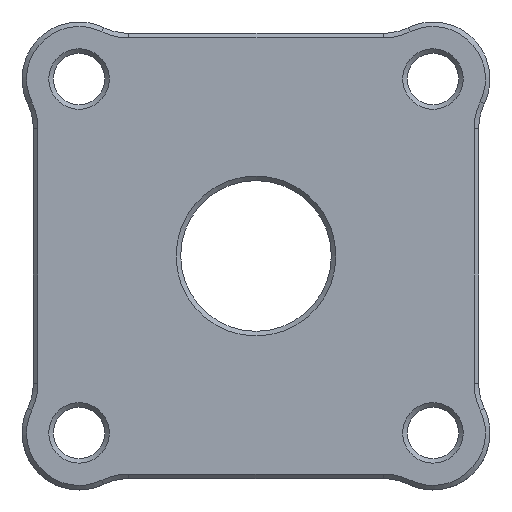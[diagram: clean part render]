
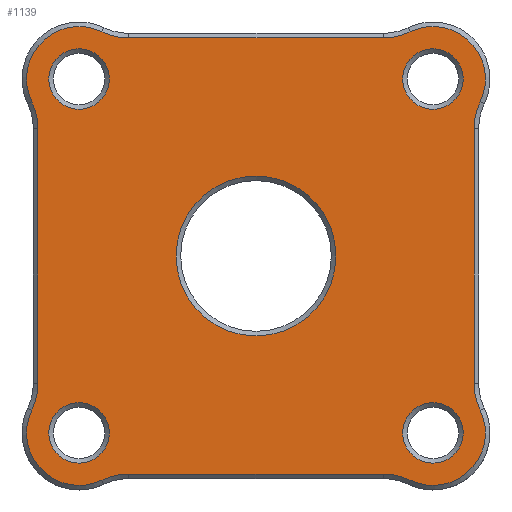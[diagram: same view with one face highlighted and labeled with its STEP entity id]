
A CAD part, front view. The second image highlights one B-rep face of the part: STEP entity #1139.
In plain terms, the highlighted planar face has unit normal (0, -1, 0).
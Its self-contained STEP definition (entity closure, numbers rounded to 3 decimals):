
#36=FACE_BOUND('',#141,.T.);
#37=FACE_BOUND('',#142,.T.);
#38=FACE_BOUND('',#143,.T.);
#39=FACE_BOUND('',#144,.T.);
#40=FACE_BOUND('',#145,.T.);
#46=PLANE('',#1228);
#67=FACE_OUTER_BOUND('',#140,.T.);
#140=EDGE_LOOP('',(#766,#767,#768,#769,#770,#771,#772,#773,#774,#775,#776,
#777,#778,#779,#780,#781));
#141=EDGE_LOOP('',(#782));
#142=EDGE_LOOP('',(#783));
#143=EDGE_LOOP('',(#784));
#144=EDGE_LOOP('',(#785));
#145=EDGE_LOOP('',(#786));
#223=LINE('',#1784,#318);
#224=LINE('',#1792,#319);
#225=LINE('',#1800,#320);
#226=LINE('',#1808,#321);
#318=VECTOR('',#1388,10.);
#319=VECTOR('',#1395,10.);
#320=VECTOR('',#1402,10.);
#321=VECTOR('',#1409,10.);
#413=CIRCLE('',#1227,2.65);
#414=CIRCLE('',#1229,5.4);
#415=CIRCLE('',#1230,5.4);
#416=CIRCLE('',#1231,4.6);
#417=CIRCLE('',#1232,5.4);
#418=CIRCLE('',#1233,5.4);
#419=CIRCLE('',#1234,4.6);
#420=CIRCLE('',#1235,5.4);
#421=CIRCLE('',#1236,5.4);
#422=CIRCLE('',#1237,4.6);
#423=CIRCLE('',#1238,5.4);
#424=CIRCLE('',#1239,5.4);
#425=CIRCLE('',#1240,4.6);
#426=CIRCLE('',#1241,2.65);
#427=CIRCLE('',#1242,2.65);
#428=CIRCLE('',#1243,7.);
#429=CIRCLE('',#1244,2.65);
#490=VERTEX_POINT('',#1776);
#491=VERTEX_POINT('',#1780);
#492=VERTEX_POINT('',#1781);
#493=VERTEX_POINT('',#1783);
#494=VERTEX_POINT('',#1785);
#495=VERTEX_POINT('',#1787);
#496=VERTEX_POINT('',#1789);
#497=VERTEX_POINT('',#1791);
#498=VERTEX_POINT('',#1793);
#499=VERTEX_POINT('',#1795);
#500=VERTEX_POINT('',#1797);
#501=VERTEX_POINT('',#1799);
#502=VERTEX_POINT('',#1801);
#503=VERTEX_POINT('',#1803);
#504=VERTEX_POINT('',#1805);
#505=VERTEX_POINT('',#1807);
#506=VERTEX_POINT('',#1809);
#507=VERTEX_POINT('',#1812);
#508=VERTEX_POINT('',#1814);
#509=VERTEX_POINT('',#1816);
#510=VERTEX_POINT('',#1818);
#592=EDGE_CURVE('',#490,#490,#413,.T.);
#593=EDGE_CURVE('',#491,#492,#414,.T.);
#594=EDGE_CURVE('',#492,#493,#223,.T.);
#595=EDGE_CURVE('',#493,#494,#415,.T.);
#596=EDGE_CURVE('',#494,#495,#416,.T.);
#597=EDGE_CURVE('',#495,#496,#417,.T.);
#598=EDGE_CURVE('',#496,#497,#224,.T.);
#599=EDGE_CURVE('',#497,#498,#418,.T.);
#600=EDGE_CURVE('',#498,#499,#419,.T.);
#601=EDGE_CURVE('',#499,#500,#420,.T.);
#602=EDGE_CURVE('',#500,#501,#225,.T.);
#603=EDGE_CURVE('',#501,#502,#421,.T.);
#604=EDGE_CURVE('',#502,#503,#422,.T.);
#605=EDGE_CURVE('',#503,#504,#423,.T.);
#606=EDGE_CURVE('',#504,#505,#226,.T.);
#607=EDGE_CURVE('',#505,#506,#424,.T.);
#608=EDGE_CURVE('',#506,#491,#425,.T.);
#609=EDGE_CURVE('',#507,#507,#426,.T.);
#610=EDGE_CURVE('',#508,#508,#427,.T.);
#611=EDGE_CURVE('',#509,#509,#428,.T.);
#612=EDGE_CURVE('',#510,#510,#429,.T.);
#766=ORIENTED_EDGE('',*,*,#593,.T.);
#767=ORIENTED_EDGE('',*,*,#594,.T.);
#768=ORIENTED_EDGE('',*,*,#595,.T.);
#769=ORIENTED_EDGE('',*,*,#596,.T.);
#770=ORIENTED_EDGE('',*,*,#597,.T.);
#771=ORIENTED_EDGE('',*,*,#598,.T.);
#772=ORIENTED_EDGE('',*,*,#599,.T.);
#773=ORIENTED_EDGE('',*,*,#600,.T.);
#774=ORIENTED_EDGE('',*,*,#601,.T.);
#775=ORIENTED_EDGE('',*,*,#602,.T.);
#776=ORIENTED_EDGE('',*,*,#603,.T.);
#777=ORIENTED_EDGE('',*,*,#604,.T.);
#778=ORIENTED_EDGE('',*,*,#605,.T.);
#779=ORIENTED_EDGE('',*,*,#606,.T.);
#780=ORIENTED_EDGE('',*,*,#607,.T.);
#781=ORIENTED_EDGE('',*,*,#608,.T.);
#782=ORIENTED_EDGE('',*,*,#609,.T.);
#783=ORIENTED_EDGE('',*,*,#610,.T.);
#784=ORIENTED_EDGE('',*,*,#611,.T.);
#785=ORIENTED_EDGE('',*,*,#612,.T.);
#786=ORIENTED_EDGE('',*,*,#592,.T.);
#1139=ADVANCED_FACE('',(#67,#36,#37,#38,#39,#40),#46,.F.);
#1227=AXIS2_PLACEMENT_3D('',#1778,#1382,#1383);
#1228=AXIS2_PLACEMENT_3D('',#1779,#1384,#1385);
#1229=AXIS2_PLACEMENT_3D('',#1782,#1386,#1387);
#1230=AXIS2_PLACEMENT_3D('',#1786,#1389,#1390);
#1231=AXIS2_PLACEMENT_3D('',#1788,#1391,#1392);
#1232=AXIS2_PLACEMENT_3D('',#1790,#1393,#1394);
#1233=AXIS2_PLACEMENT_3D('',#1794,#1396,#1397);
#1234=AXIS2_PLACEMENT_3D('',#1796,#1398,#1399);
#1235=AXIS2_PLACEMENT_3D('',#1798,#1400,#1401);
#1236=AXIS2_PLACEMENT_3D('',#1802,#1403,#1404);
#1237=AXIS2_PLACEMENT_3D('',#1804,#1405,#1406);
#1238=AXIS2_PLACEMENT_3D('',#1806,#1407,#1408);
#1239=AXIS2_PLACEMENT_3D('',#1810,#1410,#1411);
#1240=AXIS2_PLACEMENT_3D('',#1811,#1412,#1413);
#1241=AXIS2_PLACEMENT_3D('',#1813,#1414,#1415);
#1242=AXIS2_PLACEMENT_3D('',#1815,#1416,#1417);
#1243=AXIS2_PLACEMENT_3D('',#1817,#1418,#1419);
#1244=AXIS2_PLACEMENT_3D('',#1819,#1420,#1421);
#1382=DIRECTION('center_axis',(0.,1.,0.));
#1383=DIRECTION('ref_axis',(1.,0.,0.));
#1384=DIRECTION('center_axis',(0.,1.,0.));
#1385=DIRECTION('ref_axis',(1.,0.,0.));
#1386=DIRECTION('center_axis',(0.,1.,0.));
#1387=DIRECTION('ref_axis',(-0.975,0.,-0.224));
#1388=DIRECTION('',(0.,0.,1.));
#1389=DIRECTION('center_axis',(0.,1.,0.));
#1390=DIRECTION('ref_axis',(-0.975,0.,0.224));
#1391=DIRECTION('center_axis',(0.,-1.,0.));
#1392=DIRECTION('ref_axis',(1.,0.,0.));
#1393=DIRECTION('center_axis',(0.,1.,0.));
#1394=DIRECTION('ref_axis',(0.224,0.,-0.975));
#1395=DIRECTION('',(-1.,0.,0.));
#1396=DIRECTION('center_axis',(0.,1.,0.));
#1397=DIRECTION('ref_axis',(-0.224,0.,-0.975));
#1398=DIRECTION('center_axis',(0.,-1.,0.));
#1399=DIRECTION('ref_axis',(-1.,0.,0.));
#1400=DIRECTION('center_axis',(0.,1.,0.));
#1401=DIRECTION('ref_axis',(0.975,0.,0.224));
#1402=DIRECTION('',(0.,0.,-1.));
#1403=DIRECTION('center_axis',(0.,1.,0.));
#1404=DIRECTION('ref_axis',(0.975,0.,-0.224));
#1405=DIRECTION('center_axis',(0.,-1.,0.));
#1406=DIRECTION('ref_axis',(-1.,0.,0.));
#1407=DIRECTION('center_axis',(0.,1.,0.));
#1408=DIRECTION('ref_axis',(-0.224,0.,0.975));
#1409=DIRECTION('',(1.,0.,0.));
#1410=DIRECTION('center_axis',(0.,1.,0.));
#1411=DIRECTION('ref_axis',(0.224,0.,0.975));
#1412=DIRECTION('center_axis',(0.,-1.,0.));
#1413=DIRECTION('ref_axis',(1.,0.,0.));
#1414=DIRECTION('center_axis',(0.,1.,0.));
#1415=DIRECTION('ref_axis',(1.,0.,0.));
#1416=DIRECTION('center_axis',(0.,1.,0.));
#1417=DIRECTION('ref_axis',(1.,0.,0.));
#1418=DIRECTION('center_axis',(0.,1.,0.));
#1419=DIRECTION('ref_axis',(1.,0.,0.));
#1420=DIRECTION('center_axis',(0.,1.,0.));
#1421=DIRECTION('ref_axis',(1.,0.,0.));
#1776=CARTESIAN_POINT('',(-18.15,-24.,-15.5));
#1778=CARTESIAN_POINT('Origin',(-15.5,-24.,-15.5));
#1779=CARTESIAN_POINT('Origin',(0.,-24.,0.034));
#1780=CARTESIAN_POINT('',(19.64,-24.,-13.495));
#1781=CARTESIAN_POINT('',(19.1,-24.,-11.141));
#1782=CARTESIAN_POINT('Origin',(24.5,-24.,-11.141));
#1783=CARTESIAN_POINT('',(19.1,-24.,11.141));
#1784=CARTESIAN_POINT('',(19.1,-24.,6.267));
#1785=CARTESIAN_POINT('',(19.64,-24.,13.495));
#1786=CARTESIAN_POINT('Origin',(24.5,-24.,11.141));
#1787=CARTESIAN_POINT('',(13.495,-24.,19.64));
#1788=CARTESIAN_POINT('Origin',(15.5,-24.,15.5));
#1789=CARTESIAN_POINT('',(11.141,-24.,19.1));
#1790=CARTESIAN_POINT('Origin',(11.141,-24.,24.5));
#1791=CARTESIAN_POINT('',(-11.141,-24.,19.1));
#1792=CARTESIAN_POINT('',(-6.25,-24.,19.1));
#1793=CARTESIAN_POINT('',(-13.495,-24.,19.64));
#1794=CARTESIAN_POINT('Origin',(-11.141,-24.,24.5));
#1795=CARTESIAN_POINT('',(-19.64,-24.,13.495));
#1796=CARTESIAN_POINT('Origin',(-15.5,-24.,15.5));
#1797=CARTESIAN_POINT('',(-19.1,-24.,11.141));
#1798=CARTESIAN_POINT('Origin',(-24.5,-24.,11.141));
#1799=CARTESIAN_POINT('',(-19.1,-24.,-11.141));
#1800=CARTESIAN_POINT('',(-19.1,-24.,-6.233));
#1801=CARTESIAN_POINT('',(-19.64,-24.,-13.495));
#1802=CARTESIAN_POINT('Origin',(-24.5,-24.,-11.141));
#1803=CARTESIAN_POINT('',(-13.495,-24.,-19.64));
#1804=CARTESIAN_POINT('Origin',(-15.5,-24.,-15.5));
#1805=CARTESIAN_POINT('',(-11.141,-24.,-19.1));
#1806=CARTESIAN_POINT('Origin',(-11.141,-24.,-24.5));
#1807=CARTESIAN_POINT('',(11.141,-24.,-19.1));
#1808=CARTESIAN_POINT('',(-6.25,-24.,-19.1));
#1809=CARTESIAN_POINT('',(13.495,-24.,-19.64));
#1810=CARTESIAN_POINT('Origin',(11.141,-24.,-24.5));
#1811=CARTESIAN_POINT('Origin',(15.5,-24.,-15.5));
#1812=CARTESIAN_POINT('',(-18.15,-24.,15.5));
#1813=CARTESIAN_POINT('Origin',(-15.5,-24.,15.5));
#1814=CARTESIAN_POINT('',(12.85,-24.,15.5));
#1815=CARTESIAN_POINT('Origin',(15.5,-24.,15.5));
#1816=CARTESIAN_POINT('',(-7.,-24.,0.));
#1817=CARTESIAN_POINT('Origin',(0.,-24.,0.));
#1818=CARTESIAN_POINT('',(12.85,-24.,-15.5));
#1819=CARTESIAN_POINT('Origin',(15.5,-24.,-15.5));
